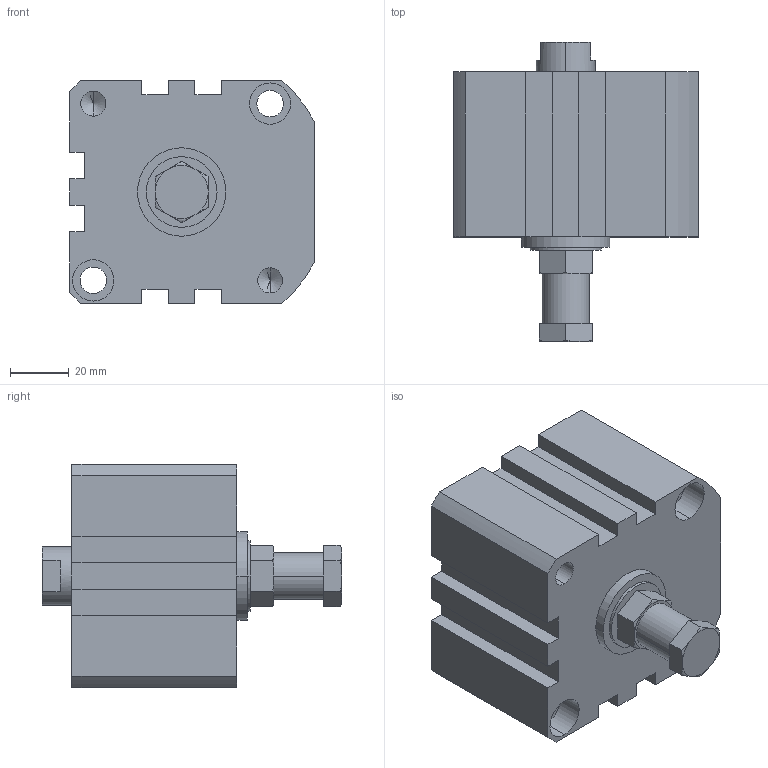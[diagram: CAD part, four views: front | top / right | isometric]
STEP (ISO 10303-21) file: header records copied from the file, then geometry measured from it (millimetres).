
FILE_DESCRIPTION (( 'STEP AP203' ), '1' );
FILE_NAME ('XGA2-63-10.STEP', '2016-05-24T02:41:09', ( '' ), ( '' ), 'SwSTEP 2.0', 'SolidWorks 2014', '' );
FILE_SCHEMA (( 'CONFIG_CONTROL_DESIGN' ));
Length unit declared in the file: millimetre
Products named in the file (3): XG#2-63-10; XGA2-63-10; X#A2-63-H
Assembly tree (2 placements, depth 2):
  XGA2-63-10
    XG#2-63-10
    X#A2-63-H
Bounding box: 83 x 101.5 x 76 mm (x, y, z)
Volume: 319015.7 mm3; surface area: 44778.3 mm2
Topology: 2 solids, 2 shells, 148 faces, 361 edges, 225 vertices
Faces by surface type: plane 64, cylinder 54, cone 18, torus 12
Entity records: 4750 total; most frequent: CARTESIAN_POINT 957, DIRECTION 763, ORIENTED_EDGE 694, EDGE_CURVE 347, AXIS2_PLACEMENT_3D 287, VERTEX_POINT 225, VECTOR 189, LINE 189
